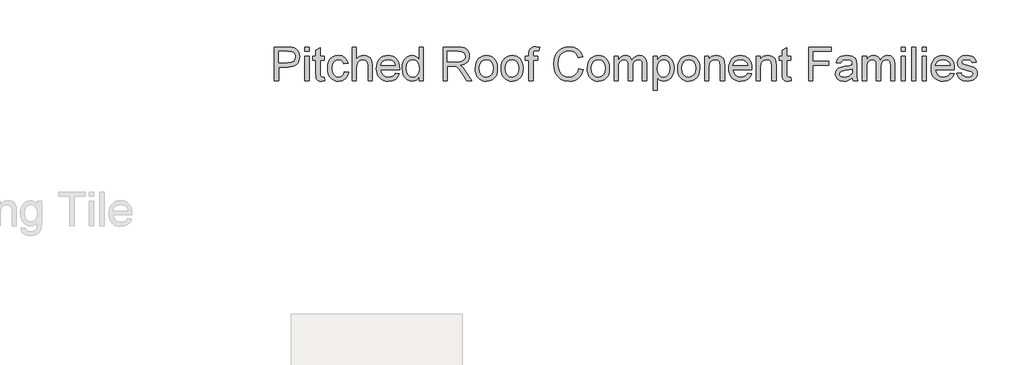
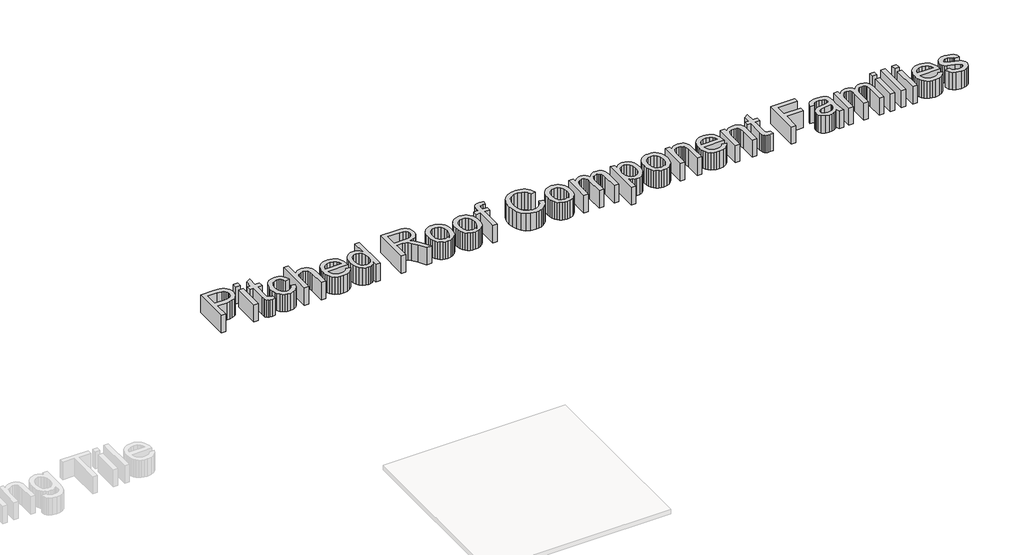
# One storey, part 5 of 5: 1 proxy.
"""IFC4 building model written with IfcOpenShell, lengths in millimetres."""

from ifc_helpers import new_model, si_unit, frame, origin, place, context, project, spatial, polyline, outline, extrude, element, save

model = new_model("IFC4")

# Units and contexts
model_context = context("Model", 3, world=origin())
ifc_project = project(units=[si_unit("LENGTHUNIT", "METRE", prefix="MILLI")], contexts=[model_context])

# Site, building, storey
site = spatial("IfcSite", under=ifc_project)
building = spatial("IfcBuilding", under=site)
storey = spatial("IfcBuildingStorey", under=building, Name="Marley Concrete Interlocking Tile", Elevation=3000.0)

# Proxy
placement = place(None, origin())
element("IfcBuildingElementProxy", 1, Name="600mm Arial", ObjectType="600mm Arial", at=placement, inside=storey, context=model_context, shape_type="SweptSolid", body=[
    extrude(outline(polyline([(-11508.482358, 7171.9959075), (-11508.482358, 7467.3805229), (-11399.0112042, 7467.3805229), (-11354.8765888, 7464.5680229), (-11335.1981032, 7459.3126142), (-11318.999185, 7450.7579267), (-11305.9553148, 7438.5163402), (-11295.7419734, 7422.2002344), (-11289.1434157, 7402.9544411), (-11286.9438965, 7381.9237921), (-11292.8844013, 7347.1100902), (-11300.3100323, 7331.8802224), (-11310.7059157, 7318.1016767), (-11324.9780011, 7306.6804027), (-11344.0322379, 7298.5223498), (-11367.8686261, 7293.627518), (-11396.4871657, 7291.9959075), (-11471.5592811, 7291.9959075), (-11471.5592811, 7171.9959075), (-11508.482358, 7171.9959075)]), holes=[polyline([(-11471.5592811, 7328.9189844), (-11394.3237042, 7328.9189844), (-11361.5833196, 7332.3084075), (-11339.9487042, 7342.4766767), (-11327.8874061, 7358.7927825), (-11323.8669734, 7380.6257152), (-11326.2377667, 7397.2122536), (-11333.3501465, 7411.2026382), (-11344.3206994, 7421.7314844), (-11358.2660119, 7427.9334075), (-11395.1890888, 7430.4574459), (-11471.5592811, 7430.4574459), (-11471.5592811, 7328.9189844)])]), frame((0.0, 0.0, 3000.0), z_axis=(0.0, 0.0, 1.0), x_axis=(1.0, 0.0, 0.0)), (0.0, 0.0, 1.0), 150.0),
    extrude(outline(polyline([(-11240.7900504, 7171.9959075), (-11240.7900504, 7388.9189844), (-11203.8669734, 7388.9189844), (-11203.8669734, 7171.9959075), (-11240.7900504, 7171.9959075)])), frame((0.0, 0.0, 3000.0), z_axis=(0.0, 0.0, 1.0), x_axis=(1.0, 0.0, 0.0)), (0.0, 0.0, 1.0), 150.0),
    extrude(outline(polyline([(-11240.7900504, 7430.4574459), (-11240.7900504, 7467.3805229), (-11203.8669734, 7467.3805229), (-11203.8669734, 7430.4574459), (-11240.7900504, 7430.4574459)])), frame((0.0, 0.0, 3000.0), z_axis=(0.0, 0.0, 1.0), x_axis=(1.0, 0.0, 0.0)), (0.0, 0.0, 1.0), 150.0),
    extrude(outline(polyline([(-11070.0208196, 7202.7891767), (-11065.405435, 7170.9141767), (-11093.0256273, 7167.3805229), (-11110.747983, 7168.9129748), (-11123.9631273, 7173.5103305), (-11133.3020696, 7180.5956671), (-11139.3958196, 7189.5920613), (-11142.749185, 7205.0427825), (-11143.8669734, 7231.4910998), (-11143.8669734, 7351.9959075), (-11171.5592811, 7351.9959075), (-11171.5592811, 7388.9189844), (-11143.8669734, 7388.9189844), (-11143.8669734, 7441.6353305), (-11106.9438965, 7463.3420613), (-11106.9438965, 7388.9189844), (-11070.0208196, 7388.9189844), (-11070.0208196, 7351.9959075), (-11106.9438965, 7351.9959075), (-11106.9438965, 7232.5728305), (-11104.9967811, 7213.534369), (-11098.686685, 7206.7915805), (-11086.1025504, 7204.3035998), (-11070.0208196, 7202.7891767)])), frame((0.0, 0.0, 3000.0), z_axis=(0.0, 0.0, 1.0), x_axis=(1.0, 0.0, 0.0)), (0.0, 0.0, 1.0), 150.0),
    extrude(outline(polyline([(-10894.6362042, 7250.4574459), (-10857.7131273, 7245.8420613), (-10868.0075984, 7213.002518), (-10887.3525504, 7188.1858113), (-10913.9270696, 7172.581845), (-10945.9102427, 7167.3805229), (-10966.6186261, 7169.1946755), (-10985.186084, 7174.6371334), (-11001.6126165, 7183.7078967), (-11015.8982234, 7196.4069652), (-11027.4614746, 7212.4954567), (-11035.7209398, 7231.7344892), (-11040.6766189, 7254.1240625), (-11042.3285119, 7279.6641767), (-11039.5069975, 7312.5217488), (-11031.0424542, 7340.9983113), (-11016.7996657, 7363.9941046), (-10996.6434157, 7380.409369), (-10972.529834, 7390.253119), (-10946.4150504, 7393.534369), (-10915.2161321, 7389.0271575), (-10890.2732234, 7375.5055229), (-10872.3795936, 7353.690619), (-10862.3285119, 7324.3035998), (-10899.2515888, 7319.6882152), (-10905.9493052, 7335.7969892), (-10916.3789927, 7347.3444652), (-10929.9637282, 7354.2945854), (-10946.1265888, 7356.6112921), (-10969.9877667, 7352.049994), (-10988.9270696, 7338.3660998), (-11001.2858436, 7314.8204267), (-11005.405435, 7280.6737921), (-11001.3759879, 7246.0674219), (-10989.2876465, 7222.440619), (-10970.6908917, 7208.8378546), (-10947.1362042, 7204.3035998), (-10928.0166129, 7207.1341286), (-10912.3405311, 7215.6257152), (-10900.9372859, 7229.9947055), (-10894.6362042, 7250.4574459)])), frame((0.0, 0.0, 3000.0), z_axis=(0.0, 0.0, 1.0), x_axis=(1.0, 0.0, 0.0)), (0.0, 0.0, 1.0), 150.0),
    extrude(outline(polyline([(-10825.405435, 7171.9959075), (-10825.405435, 7467.3805229), (-10788.482358, 7467.3805229), (-10788.482358, 7358.7747536), (-10774.9201585, 7373.9820854), (-10759.6902907, 7384.8444652), (-10742.7927547, 7391.361893), (-10724.2275504, 7393.534369), (-10701.9258677, 7391.1635757), (-10682.7612042, 7384.0511959), (-10667.67106, 7372.7561238), (-10657.592935, 7357.8372536), (-10651.9138484, 7337.3384555), (-10650.0208196, 7309.3035998), (-10650.0208196, 7171.9959075), (-10686.9438965, 7171.9959075), (-10686.9438965, 7305.4814844), (-10689.8825984, 7328.5944652), (-10698.6987042, 7344.4237921), (-10712.905435, 7353.5644171), (-10732.0160119, 7356.6112921), (-10747.6199782, 7354.5560036), (-10762.2684157, 7348.3901382), (-10774.4018292, 7338.7086479), (-10782.4607234, 7326.1064844), (-10786.9769494, 7309.3576863), (-10788.482358, 7287.2362921), (-10788.482358, 7171.9959075), (-10825.405435, 7171.9959075)])), frame((0.0, 0.0, 3000.0), z_axis=(0.0, 0.0, 1.0), x_axis=(1.0, 0.0, 0.0)), (0.0, 0.0, 1.0), 150.0),
    extrude(outline(polyline([(-10447.3765888, 7236.6112921), (-10411.1746657, 7231.9959075), (-10424.2185359, 7204.7182632), (-10445.0328388, 7184.3276382), (-10473.1488244, 7171.6173017), (-10508.0977427, 7167.3805229), (-10531.0078989, 7169.2081971), (-10551.42106, 7174.69122), (-10569.3372258, 7183.8295914), (-10584.7563965, 7196.6233113), (-10597.1557354, 7212.7163101), (-10606.0124061, 7231.752518), (-10611.3264085, 7253.7319351), (-10613.0977427, 7278.6545613), (-10611.3083797, 7304.4222897), (-10605.9402907, 7327.1341286), (-10596.9934758, 7346.7900781), (-10584.467935, 7363.3901382), (-10569.0893292, 7376.5782392), (-10551.5833196, 7385.9983113), (-10531.9499061, 7391.6503546), (-10510.1890888, 7393.534369), (-10489.1291429, 7391.6548618), (-10470.0839205, 7386.0163402), (-10453.0534217, 7376.6188041), (-10438.0376465, 7363.4622536), (-10425.7802847, 7346.8982512), (-10417.0250263, 7327.2783594), (-10411.7718713, 7304.6025781), (-10410.0208196, 7278.8709075), (-10410.2371657, 7268.9189844), (-10576.1746657, 7268.9189844), (-10569.7834398, 7241.2807632), (-10554.936685, 7220.9622536), (-10533.5094013, 7208.4682632), (-10507.3765888, 7204.3035998), (-10487.7251465, 7206.2326863), (-10471.1746657, 7212.0199459), (-10457.7251465, 7222.0259555), (-10447.3765888, 7236.6112921)]), holes=[polyline([(-10576.1746657, 7305.8420613), (-10446.9438965, 7305.8420613), (-10451.9378869, 7325.3492729), (-10461.7275504, 7339.3035998), (-10483.2539927, 7352.284369), (-10510.3333196, 7356.6112921), (-10535.2221417, 7353.158768), (-10555.8020696, 7342.8011959), (-10570.107959, 7326.6563642), (-10576.1746657, 7305.8420613)])]), frame((0.0, 0.0, 3000.0), z_axis=(0.0, 0.0, 1.0), x_axis=(1.0, 0.0, 0.0)), (0.0, 0.0, 1.0), 150.0),
    extrude(outline(polyline([(-10239.2515888, 7171.9959075), (-10239.2515888, 7206.8276382), (-10250.2987643, 7189.5695253), (-10263.6806754, 7177.2423017), (-10279.397322, 7169.8459676), (-10297.4487042, 7167.3805229), (-10321.3188965, 7170.9502344), (-10343.169858, 7181.659369), (-10361.6674542, 7198.7597296), (-10375.4775504, 7221.503119), (-10384.07731, 7248.9700661), (-10386.9438965, 7280.2410998), (-10384.3026705, 7311.1245132), (-10376.3789927, 7339.0151382), (-10363.1818773, 7362.3264363), (-10344.7203388, 7379.471869), (-10322.3916129, 7390.018744), (-10297.592935, 7393.534369), (-10279.5280311, 7391.019345), (-10263.5544734, 7383.4742729), (-10250.01481, 7371.908768), (-10239.2515888, 7357.3324459), (-10239.2515888, 7467.3805229), (-10202.3285119, 7467.3805229), (-10202.3285119, 7171.9959075), (-10239.2515888, 7171.9959075)]), holes=[polyline([(-10350.0208196, 7280.3853305), (-10345.8561561, 7246.986893), (-10333.3621657, 7223.2338882), (-10315.2071177, 7209.0361719), (-10294.0592811, 7204.3035998), (-10272.920459, 7208.8198257), (-10255.2251465, 7222.3685036), (-10243.2449782, 7245.2020373), (-10239.2515888, 7277.5728305), (-10243.3170936, 7312.9634555), (-10255.513608, 7337.5007152), (-10273.6596417, 7351.8336479), (-10295.5737042, 7356.6112921), (-10316.9378869, 7352.0229507), (-10334.4438965, 7338.2579267), (-10346.1265888, 7314.613095), (-10350.0208196, 7280.3853305)])]), frame((0.0, 0.0, 3000.0), z_axis=(0.0, 0.0, 1.0), x_axis=(1.0, 0.0, 0.0)), (0.0, 0.0, 1.0), 150.0),
    extrude(outline(polyline([(-10026.9438965, 7171.9959075), (-10026.9438965, 7467.3805229), (-9899.6602427, 7467.3805229), (-9865.4505071, 7465.3883354), (-9840.561685, 7459.4117729), (-9822.3705792, 7448.378119), (-9808.2539927, 7431.2146575), (-9799.1944975, 7409.9316046), (-9796.1746657, 7386.5391767), (-9801.1776705, 7357.440619), (-9816.186685, 7333.3180229), (-9827.5561261, 7323.4877945), (-9841.6524302, 7315.6317248), (-9878.0256273, 7305.8420613), (-9857.0400504, 7290.0487921), (-9827.1121657, 7252.0439844), (-9777.857358, 7171.9959075), (-9820.7660119, 7171.9959075), (-9859.2035119, 7233.221869), (-9886.967935, 7273.7507152), (-9906.4751465, 7292.8973498), (-9924.0352427, 7299.9285998), (-9945.4535119, 7301.2266767), (-9990.0208196, 7301.2266767), (-9990.0208196, 7171.9959075), (-10026.9438965, 7171.9959075)]), holes=[polyline([(-9990.0208196, 7338.1497536), (-9907.3765888, 7338.1497536), (-9883.6416129, 7339.456845), (-9865.2251465, 7343.378119), (-9851.3609638, 7350.174994), (-9841.2828388, 7360.1088882), (-9835.1440167, 7372.1251142), (-9833.0977427, 7385.1689844), (-9837.0009879, 7403.1798017), (-9848.7107234, 7417.6930229), (-9868.857959, 7427.2663402), (-9898.0737042, 7430.4574459), (-9990.0208196, 7430.4574459), (-9990.0208196, 7338.1497536)])]), frame((0.0, 0.0, 3000.0), z_axis=(0.0, 0.0, 1.0), x_axis=(1.0, 0.0, 0.0)), (0.0, 0.0, 1.0), 150.0),
    extrude(outline(polyline([(-9745.405435, 7280.4574459), (-9743.4087403, 7308.5508954), (-9737.4186561, 7332.7591286), (-9727.4351826, 7353.0821454), (-9713.4583196, 7369.5199459), (-9699.3868052, 7380.026256), (-9683.8549542, 7387.5307632), (-9666.8627667, 7392.0334676), (-9648.4102427, 7393.534369), (-9628.0399001, 7391.7066947), (-9609.6211802, 7386.2236719), (-9593.1540828, 7377.0853005), (-9578.638608, 7364.2915805), (-9566.7914025, 7348.2752043), (-9558.3291129, 7329.4688642), (-9553.2517391, 7307.8725601), (-9551.5592811, 7283.4862921), (-9554.5520696, 7246.1846094), (-9563.530435, 7217.7891767), (-9578.232959, 7196.5241527), (-9598.3982234, 7180.6136959), (-9622.3495455, 7170.6888161), (-9648.4102427, 7167.3805229), (-9669.0780612, 7169.2014363), (-9687.6680552, 7174.6641767), (-9704.1802246, 7183.768744), (-9718.6145696, 7196.5151382), (-9730.3355732, 7212.6870132), (-9738.7077186, 7232.0680229), (-9743.7310059, 7254.6581671), (-9745.405435, 7280.4574459)]), holes=[polyline([(-9708.482358, 7280.5295613), (-9704.2095215, 7247.113095), (-9691.3910119, 7223.3060036), (-9672.1001465, 7209.0542007), (-9648.4102427, 7204.3035998), (-9624.8285119, 7209.081244), (-9605.5737042, 7223.4141767), (-9592.7551946, 7247.5367729), (-9588.482358, 7281.6834075), (-9592.7822379, 7314.1263161), (-9605.6818773, 7337.6088882), (-9624.9637282, 7351.8606911), (-9648.4102427, 7356.6112921), (-9672.1001465, 7351.87872), (-9691.3910119, 7337.6810036), (-9704.2095215, 7313.9279988), (-9708.482358, 7280.5295613)])]), frame((0.0, 0.0, 3000.0), z_axis=(0.0, 0.0, 1.0), x_axis=(1.0, 0.0, 0.0)), (0.0, 0.0, 1.0), 150.0),
    extrude(outline(polyline([(-9519.2515888, 7280.4574459), (-9517.2548941, 7308.5508954), (-9511.26481, 7332.7591286), (-9501.2813364, 7353.0821454), (-9487.3044734, 7369.5199459), (-9473.232959, 7380.026256), (-9457.701108, 7387.5307632), (-9440.7089205, 7392.0334676), (-9422.2563965, 7393.534369), (-9401.886054, 7391.7066947), (-9383.467334, 7386.2236719), (-9367.0002366, 7377.0853005), (-9352.4847619, 7364.2915805), (-9340.6375564, 7348.2752043), (-9332.1752667, 7329.4688642), (-9327.0978929, 7307.8725601), (-9325.405435, 7283.4862921), (-9328.3982234, 7246.1846094), (-9337.3765888, 7217.7891767), (-9352.0791129, 7196.5241527), (-9372.2443773, 7180.6136959), (-9396.1956994, 7170.6888161), (-9422.2563965, 7167.3805229), (-9442.924215, 7169.2014363), (-9461.514209, 7174.6641767), (-9478.0263785, 7183.768744), (-9492.4607234, 7196.5151382), (-9504.181727, 7212.6870132), (-9512.5538725, 7232.0680229), (-9517.5771597, 7254.6581671), (-9519.2515888, 7280.4574459)]), holes=[polyline([(-9482.3285119, 7280.5295613), (-9478.0556754, 7247.113095), (-9465.2371657, 7223.3060036), (-9445.9463004, 7209.0542007), (-9422.2563965, 7204.3035998), (-9398.6746657, 7209.081244), (-9379.419858, 7223.4141767), (-9366.6013484, 7247.5367729), (-9362.3285119, 7281.6834075), (-9366.6283917, 7314.1263161), (-9379.5280311, 7337.6088882), (-9398.8098821, 7351.8606911), (-9422.2563965, 7356.6112921), (-9445.9463004, 7351.87872), (-9465.2371657, 7337.6810036), (-9478.0556754, 7313.9279988), (-9482.3285119, 7280.5295613)])]), frame((0.0, 0.0, 3000.0), z_axis=(0.0, 0.0, 1.0), x_axis=(1.0, 0.0, 0.0)), (0.0, 0.0, 1.0), 150.0),
    extrude(outline(polyline([(-9274.6362042, 7171.9959075), (-9274.6362042, 7351.9959075), (-9306.9438965, 7351.9959075), (-9306.9438965, 7388.9189844), (-9274.6362042, 7388.9189844), (-9274.6362042, 7410.7699459), (-9270.7419734, 7441.5632152), (-9263.3140888, 7453.8408594), (-9251.8477427, 7463.5584075), (-9235.8020696, 7469.8865325), (-9214.6362042, 7471.9959075), (-9180.9583196, 7467.9574459), (-9186.3669734, 7433.3420613), (-9207.6410119, 7435.0728305), (-9221.6764686, 7433.5403786), (-9230.8982234, 7428.9430229), (-9236.0094013, 7420.1629748), (-9237.7131273, 7406.0824459), (-9237.7131273, 7388.9189844), (-9196.1746657, 7388.9189844), (-9196.1746657, 7351.9959075), (-9237.7131273, 7351.9959075), (-9237.7131273, 7171.9959075), (-9274.6362042, 7171.9959075)])), frame((0.0, 0.0, 3000.0), z_axis=(0.0, 0.0, 1.0), x_axis=(1.0, 0.0, 0.0)), (0.0, 0.0, 1.0), 150.0),
    extrude(outline(polyline([(-8836.1746657, 7276.9959075), (-8799.2515888, 7267.4766767), (-8806.5577787, 7244.5146875), (-8816.2888484, 7224.4508354), (-8828.4447979, 7207.2851202), (-8843.0256273, 7193.0175421), (-8859.70231, 7181.8013462), (-8878.1458196, 7173.7897777), (-8898.3561561, 7168.9828366), (-8920.3333196, 7167.3805229), (-8963.1608436, 7172.2302825), (-8997.1722619, 7186.7795613), (-9023.2419734, 7210.5235517), (-9042.2443773, 7242.9574459), (-9053.8459398, 7281.0884555), (-9057.7131273, 7321.9237921), (-9053.3411321, 7364.9947055), (-9040.2251465, 7402.1882152), (-9019.0502667, 7432.3234315), (-8990.5015888, 7454.2194652), (-8956.6434157, 7467.5517969), (-8919.5400504, 7471.9959075), (-8879.0562763, 7466.2447055), (-8861.4443472, 7459.0557031), (-8845.5857234, 7448.9910998), (-8831.7418232, 7436.3168209), (-8820.1740648, 7421.2987921), (-8803.8669734, 7384.2314844), (-8840.7900504, 7375.4334075), (-8853.5905311, 7402.3594892), (-8871.0785119, 7420.8300421), (-8893.4703388, 7431.5121334), (-8920.982358, 7435.0728305), (-8952.6950984, 7431.1245132), (-8978.7467811, 7419.2795613), (-8998.5154109, 7400.7819652), (-9011.3789927, 7376.8757152), (-9018.4372859, 7349.8504748), (-9020.7900504, 7321.9959075), (-9018.0045936, 7287.8853305), (-9009.6482234, 7258.3901382), (-8995.405435, 7234.6371334), (-8974.9607234, 7217.753119), (-8950.4505071, 7207.6659796), (-8924.0112042, 7204.3035998), (-8893.1908917, 7208.8829267), (-8867.5088004, 7222.6209075), (-8848.1187763, 7245.3733113), (-8836.1746657, 7276.9959075)])), frame((0.0, 0.0, 3000.0), z_axis=(0.0, 0.0, 1.0), x_axis=(1.0, 0.0, 0.0)), (0.0, 0.0, 1.0), 150.0),
    extrude(outline(polyline([(-8762.3285119, 7280.4574459), (-8760.3318172, 7308.5508954), (-8754.341733, 7332.7591286), (-8744.3582595, 7353.0821454), (-8730.3813965, 7369.5199459), (-8716.3098821, 7380.026256), (-8700.7780311, 7387.5307632), (-8683.7858436, 7392.0334676), (-8665.3333196, 7393.534369), (-8644.962977, 7391.7066947), (-8626.5442571, 7386.2236719), (-8610.0771597, 7377.0853005), (-8595.561685, 7364.2915805), (-8583.7144794, 7348.2752043), (-8575.2521898, 7329.4688642), (-8570.174816, 7307.8725601), (-8568.482358, 7283.4862921), (-8571.4751465, 7246.1846094), (-8580.4535119, 7217.7891767), (-8595.1560359, 7196.5241527), (-8615.3213004, 7180.6136959), (-8639.2726225, 7170.6888161), (-8665.3333196, 7167.3805229), (-8686.0011381, 7169.2014363), (-8704.5911321, 7174.6641767), (-8721.1033016, 7183.768744), (-8735.5376465, 7196.5151382), (-8747.2586501, 7212.6870132), (-8755.6307955, 7232.0680229), (-8760.6540828, 7254.6581671), (-8762.3285119, 7280.4574459)]), holes=[polyline([(-8725.405435, 7280.5295613), (-8721.1325984, 7247.113095), (-8708.3140888, 7223.3060036), (-8689.0232234, 7209.0542007), (-8665.3333196, 7204.3035998), (-8641.7515888, 7209.081244), (-8622.4967811, 7223.4141767), (-8609.6782715, 7247.5367729), (-8605.405435, 7281.6834075), (-8609.7053148, 7314.1263161), (-8622.6049542, 7337.6088882), (-8641.8868052, 7351.8606911), (-8665.3333196, 7356.6112921), (-8689.0232234, 7351.87872), (-8708.3140888, 7337.6810036), (-8721.1325984, 7313.9279988), (-8725.405435, 7280.5295613)])]), frame((0.0, 0.0, 3000.0), z_axis=(0.0, 0.0, 1.0), x_axis=(1.0, 0.0, 0.0)), (0.0, 0.0, 1.0), 150.0),
    extrude(outline(polyline([(-8526.9438965, 7171.9959075), (-8526.9438965, 7388.9189844), (-8490.0208196, 7388.9189844), (-8490.0208196, 7353.221869), (-8478.9150504, 7369.6191046), (-8464.6362042, 7382.4646575), (-8447.67106, 7390.7669411), (-8428.5063965, 7393.534369), (-8407.9715407, 7390.7128546), (-8391.5112042, 7382.2483113), (-8379.2155311, 7368.6996334), (-8371.1746657, 7350.6257152), (-8357.7161321, 7369.3982512), (-8342.3645696, 7382.8072055), (-8325.1199782, 7390.8525781), (-8305.982358, 7393.534369), (-8278.2269494, 7389.0722296), (-8257.701108, 7375.6858113), (-8245.0178148, 7353.0145373), (-8240.7900504, 7320.6978305), (-8240.7900504, 7171.9959075), (-8277.7131273, 7171.9959075), (-8277.7131273, 7304.8324459), (-8281.138608, 7335.6617729), (-8285.95231, 7344.1623738), (-8293.5424542, 7350.8420613), (-8303.3050744, 7355.1689844), (-8314.6362042, 7356.6112921), (-8334.639209, 7352.9153786), (-8350.9463004, 7341.8276382), (-8361.7906513, 7322.5908594), (-8365.405435, 7294.4478305), (-8365.405435, 7171.9959075), (-8402.3285119, 7171.9959075), (-8402.3285119, 7308.9430229), (-8404.4649302, 7329.8204267), (-8410.874185, 7344.7122536), (-8422.1512282, 7353.6365325), (-8438.8910119, 7356.6112921), (-8453.1157715, 7354.628119), (-8466.2227427, 7348.6785998), (-8477.0400504, 7338.9069652), (-8484.3958196, 7325.4574459), (-8488.6145696, 7306.7975902), (-8490.0208196, 7281.3949459), (-8490.0208196, 7171.9959075), (-8526.9438965, 7171.9959075)])), frame((0.0, 0.0, 3000.0), z_axis=(0.0, 0.0, 1.0), x_axis=(1.0, 0.0, 0.0)), (0.0, 0.0, 1.0), 150.0),
    extrude(outline(polyline([(-8185.405435, 7088.9189844), (-8185.405435, 7388.9189844), (-8148.482358, 7388.9189844), (-8148.482358, 7352.7170613), (-8136.4390888, 7370.5746334), (-8122.9535119, 7383.3300421), (-8107.232358, 7390.9832873), (-8088.482358, 7393.534369), (-8063.5124061, 7389.9646575), (-8041.6794734, 7379.2555229), (-8023.9030311, 7362.0560036), (-8011.1025504, 7339.0151382), (-8003.3681754, 7311.8096094), (-8000.7900504, 7282.1160998), (-8003.701709, 7250.5385757), (-8012.436685, 7222.2963882), (-8026.7155311, 7198.8228305), (-8046.2588004, 7181.5511959), (-8069.0202186, 7170.9231911), (-8092.9535119, 7167.3805229), (-8109.9276705, 7169.7513161), (-8125.0809157, 7176.8636959), (-8138.0526705, 7187.5998738), (-8148.482358, 7200.8420613), (-8148.482358, 7088.9189844), (-8185.405435, 7088.9189844)]), holes=[polyline([(-8148.482358, 7278.7266767), (-8144.4889686, 7245.6257152), (-8132.5088004, 7222.4766767), (-8114.8315167, 7208.846869), (-8093.7467811, 7204.3035998), (-8072.3194975, 7209.0091286), (-8054.1914927, 7223.1257152), (-8041.8327186, 7247.1221094), (-8037.7131273, 7281.4670613), (-8041.73356, 7314.3877344), (-8053.794858, 7337.8612921), (-8071.4450984, 7351.9237921), (-8092.232358, 7356.6112921), (-8113.1007475, 7351.6263161), (-8131.4270696, 7336.6713882), (-8144.2185359, 7312.2152584), (-8148.482358, 7278.7266767)])]), frame((0.0, 0.0, 3000.0), z_axis=(0.0, 0.0, 1.0), x_axis=(1.0, 0.0, 0.0)), (0.0, 0.0, 1.0), 150.0),
    extrude(outline(polyline([(-7968.482358, 7280.4574459), (-7966.4856633, 7308.5508954), (-7960.4955792, 7332.7591286), (-7950.5121056, 7353.0821454), (-7936.5352427, 7369.5199459), (-7922.4637282, 7380.026256), (-7906.9318773, 7387.5307632), (-7889.9396898, 7392.0334676), (-7871.4871657, 7393.534369), (-7851.1168232, 7391.7066947), (-7832.6981032, 7386.2236719), (-7816.2310059, 7377.0853005), (-7801.7155311, 7364.2915805), (-7789.8683256, 7348.2752043), (-7781.4060359, 7329.4688642), (-7776.3286621, 7307.8725601), (-7774.6362042, 7283.4862921), (-7777.6289927, 7246.1846094), (-7786.607358, 7217.7891767), (-7801.3098821, 7196.5241527), (-7821.4751465, 7180.6136959), (-7845.4264686, 7170.6888161), (-7871.4871657, 7167.3805229), (-7892.1549842, 7169.2014363), (-7910.7449782, 7174.6641767), (-7927.2571477, 7183.768744), (-7941.6914927, 7196.5151382), (-7953.4124963, 7212.6870132), (-7961.7846417, 7232.0680229), (-7966.807929, 7254.6581671), (-7968.482358, 7280.4574459)]), holes=[polyline([(-7931.5592811, 7280.5295613), (-7927.2864446, 7247.113095), (-7914.467935, 7223.3060036), (-7895.1770696, 7209.0542007), (-7871.4871657, 7204.3035998), (-7847.905435, 7209.081244), (-7828.6506273, 7223.4141767), (-7815.8321177, 7247.5367729), (-7811.5592811, 7281.6834075), (-7815.8591609, 7314.1263161), (-7828.7588004, 7337.6088882), (-7848.0406513, 7351.8606911), (-7871.4871657, 7356.6112921), (-7895.1770696, 7351.87872), (-7914.467935, 7337.6810036), (-7927.2864446, 7313.9279988), (-7931.5592811, 7280.5295613)])]), frame((0.0, 0.0, 3000.0), z_axis=(0.0, 0.0, 1.0), x_axis=(1.0, 0.0, 0.0)), (0.0, 0.0, 1.0), 150.0),
    extrude(outline(polyline([(-7733.0977427, 7171.9959075), (-7733.0977427, 7388.9189844), (-7696.1746657, 7388.9189844), (-7696.1746657, 7358.6305229), (-7683.3471417, 7373.9009555), (-7667.9414927, 7384.8084075), (-7649.9577186, 7391.3528786), (-7629.3958196, 7393.534369), (-7611.1956994, 7391.7765565), (-7594.5280311, 7386.503119), (-7580.6277907, 7378.3721094), (-7570.7299542, 7368.0415805), (-7559.6602427, 7340.8901382), (-7557.7131273, 7305.1930229), (-7557.7131273, 7171.9959075), (-7594.6362042, 7171.9959075), (-7594.6362042, 7300.2170613), (-7598.8910119, 7332.8853305), (-7604.7774302, 7342.611893), (-7613.9270696, 7350.1569652), (-7625.654834, 7354.9977104), (-7639.2756273, 7356.6112921), (-7660.9012282, 7352.987494), (-7679.3357234, 7342.1160998), (-7686.7027607, 7333.2414003), (-7691.9649302, 7321.112494), (-7696.1746657, 7287.0920613), (-7696.1746657, 7171.9959075), (-7733.0977427, 7171.9959075)])), frame((0.0, 0.0, 3000.0), z_axis=(0.0, 0.0, 1.0), x_axis=(1.0, 0.0, 0.0)), (0.0, 0.0, 1.0), 150.0),
    extrude(outline(polyline([(-7355.0688965, 7236.6112921), (-7318.8669734, 7231.9959075), (-7331.9108436, 7204.7182632), (-7352.7251465, 7184.3276382), (-7380.8411321, 7171.6173017), (-7415.7900504, 7167.3805229), (-7438.7002066, 7169.2081971), (-7459.1133677, 7174.69122), (-7477.0295335, 7183.8295914), (-7492.4487042, 7196.6233113), (-7504.8480431, 7212.7163101), (-7513.7047138, 7231.752518), (-7519.0187162, 7253.7319351), (-7520.7900504, 7278.6545613), (-7519.0006874, 7304.4222897), (-7513.6325984, 7327.1341286), (-7504.6857835, 7346.7900781), (-7492.1602427, 7363.3901382), (-7476.7816369, 7376.5782392), (-7459.2756273, 7385.9983113), (-7439.6422138, 7391.6503546), (-7417.8813965, 7393.534369), (-7396.8214506, 7391.6548618), (-7377.7762282, 7386.0163402), (-7360.7457294, 7376.6188041), (-7345.7299542, 7363.4622536), (-7333.4725924, 7346.8982512), (-7324.717334, 7327.2783594), (-7319.464179, 7304.6025781), (-7317.7131273, 7278.8709075), (-7317.9294734, 7268.9189844), (-7483.8669734, 7268.9189844), (-7477.4757475, 7241.2807632), (-7462.6289927, 7220.9622536), (-7441.201709, 7208.4682632), (-7415.0688965, 7204.3035998), (-7395.4174542, 7206.2326863), (-7378.8669734, 7212.0199459), (-7365.4174542, 7222.0259555), (-7355.0688965, 7236.6112921)]), holes=[polyline([(-7483.8669734, 7305.8420613), (-7354.6362042, 7305.8420613), (-7359.6301946, 7325.3492729), (-7369.419858, 7339.3035998), (-7390.9463004, 7352.284369), (-7418.0256273, 7356.6112921), (-7442.9144494, 7353.158768), (-7463.4943773, 7342.8011959), (-7477.8002667, 7326.6563642), (-7483.8669734, 7305.8420613)])]), frame((0.0, 0.0, 3000.0), z_axis=(0.0, 0.0, 1.0), x_axis=(1.0, 0.0, 0.0)), (0.0, 0.0, 1.0), 150.0),
    extrude(outline(polyline([(-7280.7900504, 7171.9959075), (-7280.7900504, 7388.9189844), (-7243.8669734, 7388.9189844), (-7243.8669734, 7358.6305229), (-7231.0394494, 7373.9009555), (-7215.6338004, 7384.8084075), (-7197.6500263, 7391.3528786), (-7177.0881273, 7393.534369), (-7158.8880071, 7391.7765565), (-7142.2203388, 7386.503119), (-7128.3200984, 7378.3721094), (-7118.4222619, 7368.0415805), (-7107.3525504, 7340.8901382), (-7105.405435, 7305.1930229), (-7105.405435, 7171.9959075), (-7142.3285119, 7171.9959075), (-7142.3285119, 7300.2170613), (-7146.5833196, 7332.8853305), (-7152.4697379, 7342.611893), (-7161.6193773, 7350.1569652), (-7173.3471417, 7354.9977104), (-7186.967935, 7356.6112921), (-7208.5935359, 7352.987494), (-7227.0280311, 7342.1160998), (-7234.3950684, 7333.2414003), (-7239.6572379, 7321.112494), (-7243.8669734, 7287.0920613), (-7243.8669734, 7171.9959075), (-7280.7900504, 7171.9959075)])), frame((0.0, 0.0, 3000.0), z_axis=(0.0, 0.0, 1.0), x_axis=(1.0, 0.0, 0.0)), (0.0, 0.0, 1.0), 150.0),
    extrude(outline(polyline([(-6976.1746657, 7202.7891767), (-6971.5592811, 7170.9141767), (-6999.1794734, 7167.3805229), (-7016.9018292, 7168.9129748), (-7030.1169734, 7173.5103305), (-7039.4559157, 7180.5956671), (-7045.5496657, 7189.5920613), (-7048.9030311, 7205.0427825), (-7050.0208196, 7231.4910998), (-7050.0208196, 7351.9959075), (-7077.7131273, 7351.9959075), (-7077.7131273, 7388.9189844), (-7050.0208196, 7388.9189844), (-7050.0208196, 7441.6353305), (-7013.0977427, 7463.3420613), (-7013.0977427, 7388.9189844), (-6976.1746657, 7388.9189844), (-6976.1746657, 7351.9959075), (-7013.0977427, 7351.9959075), (-7013.0977427, 7232.5728305), (-7011.1506273, 7213.534369), (-7004.8405311, 7206.7915805), (-6992.2563965, 7204.3035998), (-6976.1746657, 7202.7891767)])), frame((0.0, 0.0, 3000.0), z_axis=(0.0, 0.0, 1.0), x_axis=(1.0, 0.0, 0.0)), (0.0, 0.0, 1.0), 150.0),
    extrude(outline(polyline([(-6819.2515888, 7171.9959075), (-6819.2515888, 7467.3805229), (-6620.7900504, 7467.3805229), (-6620.7900504, 7430.4574459), (-6782.3285119, 7430.4574459), (-6782.3285119, 7342.7651382), (-6643.8669734, 7342.7651382), (-6643.8669734, 7305.8420613), (-6782.3285119, 7305.8420613), (-6782.3285119, 7171.9959075), (-6819.2515888, 7171.9959075)])), frame((0.0, 0.0, 3000.0), z_axis=(0.0, 0.0, 1.0), x_axis=(1.0, 0.0, 0.0)), (0.0, 0.0, 1.0), 150.0),
    extrude(outline(polyline([(-6436.1746657, 7199.6882152), (-6453.8158917, 7184.5620132), (-6471.9799542, 7174.6641767), (-6491.0815167, 7169.2014363), (-6511.5352427, 7167.3805229), (-6542.3916129, 7171.7615325), (-6565.1530311, 7184.9045613), (-6579.1884879, 7204.862494), (-6583.8669734, 7229.6882152), (-6582.1001465, 7244.9947055), (-6576.7996657, 7258.8949459), (-6568.623584, 7270.7939844), (-6558.2299542, 7280.096869), (-6532.3765888, 7292.2122536), (-6500.4294734, 7297.7651382), (-6462.6770696, 7303.6064844), (-6436.3910119, 7310.4574459), (-6436.1746657, 7318.6785998), (-6438.716733, 7335.1569652), (-6446.342935, 7345.9382152), (-6463.3982234, 7353.9430229), (-6487.1602427, 7356.6112921), (-6509.155435, 7354.8354507), (-6524.5160119, 7349.5079267), (-6534.9907715, 7339.6551623), (-6542.3285119, 7324.3035998), (-6579.2515888, 7328.9189844), (-6572.842334, 7349.1112921), (-6563.2780311, 7364.9766767), (-6549.6662523, 7377.1100902), (-6531.1145696, 7386.1064844), (-6508.4252667, 7391.6773979), (-6482.4006273, 7393.534369), (-6457.4396898, 7391.893744), (-6437.6530311, 7386.971869), (-6422.7341609, 7379.5710277), (-6412.3765888, 7370.4935036), (-6405.5075984, 7359.2705469), (-6401.0544734, 7345.4334075), (-6399.2515888, 7313.1257152), (-6399.2515888, 7267.1882152), (-6397.3765888, 7203.0415805), (-6390.0208196, 7171.9959075), (-6426.9438965, 7171.9959075), (-6436.1746657, 7199.6882152)]), holes=[polyline([(-6436.1746657, 7273.534369), (-6495.7419734, 7262.2122536), (-6527.5088004, 7256.2266767), (-6541.8958196, 7246.4910998), (-6546.9438965, 7232.284369), (-6544.1944975, 7221.3048017), (-6535.9463004, 7212.3084075), (-6522.3795936, 7206.3048017), (-6503.6746657, 7204.3035998), (-6483.842935, 7206.5121334), (-6466.3188965, 7213.1377344), (-6452.1121657, 7222.9003546), (-6442.232358, 7234.5199459), (-6437.8513484, 7246.4910998), (-6436.3910119, 7263.0776382), (-6436.1746657, 7273.534369)])]), frame((0.0, 0.0, 3000.0), z_axis=(0.0, 0.0, 1.0), x_axis=(1.0, 0.0, 0.0)), (0.0, 0.0, 1.0), 150.0),
    extrude(outline(polyline([(-6348.482358, 7171.9959075), (-6348.482358, 7388.9189844), (-6311.5592811, 7388.9189844), (-6311.5592811, 7353.221869), (-6300.4535119, 7369.6191046), (-6286.1746657, 7382.4646575), (-6269.2095215, 7390.7669411), (-6250.044858, 7393.534369), (-6229.5100023, 7390.7128546), (-6213.0496657, 7382.2483113), (-6200.7539927, 7368.6996334), (-6192.7131273, 7350.6257152), (-6179.2545936, 7369.3982512), (-6163.9030311, 7382.8072055), (-6146.6584398, 7390.8525781), (-6127.5208196, 7393.534369), (-6099.7654109, 7389.0722296), (-6079.2395696, 7375.6858113), (-6066.5562763, 7353.0145373), (-6062.3285119, 7320.6978305), (-6062.3285119, 7171.9959075), (-6099.2515888, 7171.9959075), (-6099.2515888, 7304.8324459), (-6102.6770696, 7335.6617729), (-6107.4907715, 7344.1623738), (-6115.0809157, 7350.8420613), (-6124.8435359, 7355.1689844), (-6136.1746657, 7356.6112921), (-6156.1776705, 7352.9153786), (-6172.4847619, 7341.8276382), (-6183.3291129, 7322.5908594), (-6186.9438965, 7294.4478305), (-6186.9438965, 7171.9959075), (-6223.8669734, 7171.9959075), (-6223.8669734, 7308.9430229), (-6226.0033917, 7329.8204267), (-6232.4126465, 7344.7122536), (-6243.6896898, 7353.6365325), (-6260.4294734, 7356.6112921), (-6274.654233, 7354.628119), (-6287.7612042, 7348.6785998), (-6298.5785119, 7338.9069652), (-6305.9342811, 7325.4574459), (-6310.1530311, 7306.7975902), (-6311.5592811, 7281.3949459), (-6311.5592811, 7171.9959075), (-6348.482358, 7171.9959075)])), frame((0.0, 0.0, 3000.0), z_axis=(0.0, 0.0, 1.0), x_axis=(1.0, 0.0, 0.0)), (0.0, 0.0, 1.0), 150.0),
    extrude(outline(polyline([(-6006.9438965, 7171.9959075), (-6006.9438965, 7388.9189844), (-5970.0208196, 7388.9189844), (-5970.0208196, 7171.9959075), (-6006.9438965, 7171.9959075)])), frame((0.0, 0.0, 3000.0), z_axis=(0.0, 0.0, 1.0), x_axis=(1.0, 0.0, 0.0)), (0.0, 0.0, 1.0), 150.0),
    extrude(outline(polyline([(-6006.9438965, 7430.4574459), (-6006.9438965, 7467.3805229), (-5970.0208196, 7467.3805229), (-5970.0208196, 7430.4574459), (-6006.9438965, 7430.4574459)])), frame((0.0, 0.0, 3000.0), z_axis=(0.0, 0.0, 1.0), x_axis=(1.0, 0.0, 0.0)), (0.0, 0.0, 1.0), 150.0),
    extrude(outline(polyline([(-5914.6362042, 7171.9959075), (-5914.6362042, 7467.3805229), (-5877.7131273, 7467.3805229), (-5877.7131273, 7171.9959075), (-5914.6362042, 7171.9959075)])), frame((0.0, 0.0, 3000.0), z_axis=(0.0, 0.0, 1.0), x_axis=(1.0, 0.0, 0.0)), (0.0, 0.0, 1.0), 150.0),
    extrude(outline(polyline([(-5822.3285119, 7171.9959075), (-5822.3285119, 7388.9189844), (-5785.405435, 7388.9189844), (-5785.405435, 7171.9959075), (-5822.3285119, 7171.9959075)])), frame((0.0, 0.0, 3000.0), z_axis=(0.0, 0.0, 1.0), x_axis=(1.0, 0.0, 0.0)), (0.0, 0.0, 1.0), 150.0),
    extrude(outline(polyline([(-5822.3285119, 7430.4574459), (-5822.3285119, 7467.3805229), (-5785.405435, 7467.3805229), (-5785.405435, 7430.4574459), (-5822.3285119, 7430.4574459)])), frame((0.0, 0.0, 3000.0), z_axis=(0.0, 0.0, 1.0), x_axis=(1.0, 0.0, 0.0)), (0.0, 0.0, 1.0), 150.0),
    extrude(outline(polyline([(-5578.1458196, 7236.6112921), (-5541.9438965, 7231.9959075), (-5554.9877667, 7204.7182632), (-5575.8020696, 7184.3276382), (-5603.9180552, 7171.6173017), (-5638.8669734, 7167.3805229), (-5661.7771297, 7169.2081971), (-5682.1902907, 7174.69122), (-5700.1064566, 7183.8295914), (-5715.5256273, 7196.6233113), (-5727.9249662, 7212.7163101), (-5736.7816369, 7231.752518), (-5742.0956393, 7253.7319351), (-5743.8669734, 7278.6545613), (-5742.0776104, 7304.4222897), (-5736.7095215, 7327.1341286), (-5727.7627066, 7346.7900781), (-5715.2371657, 7363.3901382), (-5699.85856, 7376.5782392), (-5682.3525504, 7385.9983113), (-5662.7191369, 7391.6503546), (-5640.9583196, 7393.534369), (-5619.8983737, 7391.6548618), (-5600.8531513, 7386.0163402), (-5583.8226525, 7376.6188041), (-5568.8068773, 7363.4622536), (-5556.5495155, 7346.8982512), (-5547.7942571, 7327.2783594), (-5542.541102, 7304.6025781), (-5540.7900504, 7278.8709075), (-5541.0063965, 7268.9189844), (-5706.9438965, 7268.9189844), (-5700.5526705, 7241.2807632), (-5685.7059157, 7220.9622536), (-5664.2786321, 7208.4682632), (-5638.1458196, 7204.3035998), (-5618.4943773, 7206.2326863), (-5601.9438965, 7212.0199459), (-5588.4943773, 7222.0259555), (-5578.1458196, 7236.6112921)]), holes=[polyline([(-5706.9438965, 7305.8420613), (-5577.7131273, 7305.8420613), (-5582.7071177, 7325.3492729), (-5592.4967811, 7339.3035998), (-5614.0232234, 7352.284369), (-5641.1025504, 7356.6112921), (-5665.9913725, 7353.158768), (-5686.5713004, 7342.8011959), (-5700.8771898, 7326.6563642), (-5706.9438965, 7305.8420613)])]), frame((0.0, 0.0, 3000.0), z_axis=(0.0, 0.0, 1.0), x_axis=(1.0, 0.0, 0.0)), (0.0, 0.0, 1.0), 150.0),
    extrude(outline(polyline([(-5517.7131273, 7236.6112921), (-5480.7900504, 7241.2266767), (-5474.966733, 7225.4334075), (-5463.6987042, 7213.8228305), (-5446.9138484, 7206.6834075), (-5424.5400504, 7204.3035998), (-5402.436685, 7206.4850902), (-5386.8958196, 7213.0295613), (-5377.701108, 7222.5127344), (-5374.6362042, 7233.5103305), (-5377.7191369, 7242.9213882), (-5386.967935, 7250.096869), (-5424.9727427, 7260.6257152), (-5480.5737042, 7278.690619), (-5494.6452186, 7287.768143), (-5504.8405311, 7299.784369), (-5511.0334398, 7313.9730709), (-5513.0977427, 7329.5680229), (-5511.4390888, 7343.8739123), (-5506.4631273, 7357.0800421), (-5498.6205792, 7368.6635757), (-5488.3621657, 7378.1016767), (-5464.888608, 7389.0271575), (-5433.1217811, 7393.534369), (-5409.0893292, 7391.72247), (-5388.1938965, 7386.2867729), (-5371.3910119, 7377.7591286), (-5359.6362042, 7366.6713882), (-5351.8477427, 7352.2032392), (-5346.9438965, 7333.534369), (-5383.8669734, 7328.9189844), (-5388.5274302, 7340.5385757), (-5397.749185, 7349.2915805), (-5411.6223821, 7354.7813642), (-5430.2371657, 7356.6112921), (-5451.4390888, 7354.862494), (-5465.5737042, 7349.6160998), (-5473.5244254, 7342.0439844), (-5476.1746657, 7333.3180229), (-5471.7756273, 7322.5728305), (-5458.0015888, 7314.4237921), (-5426.1987042, 7306.5632152), (-5372.0039927, 7289.1834075), (-5357.6890888, 7280.8721094), (-5346.8357234, 7269.4959075), (-5339.9937763, 7255.018744), (-5337.7131273, 7237.4045613), (-5340.3904109, 7219.1954267), (-5348.4222619, 7202.0680229), (-5361.5021898, 7187.3654988), (-5379.3237042, 7176.4310036), (-5400.8501465, 7169.643143), (-5425.044858, 7167.3805229), (-5462.2744254, 7171.7435036), (-5489.4438965, 7184.8324459), (-5507.5809157, 7206.503119), (-5517.7131273, 7236.6112921)])), frame((0.0, 0.0, 3000.0), z_axis=(0.0, 0.0, 1.0), x_axis=(1.0, 0.0, 0.0)), (0.0, 0.0, 1.0), 150.0),
])

save(model, "model.ifc")
